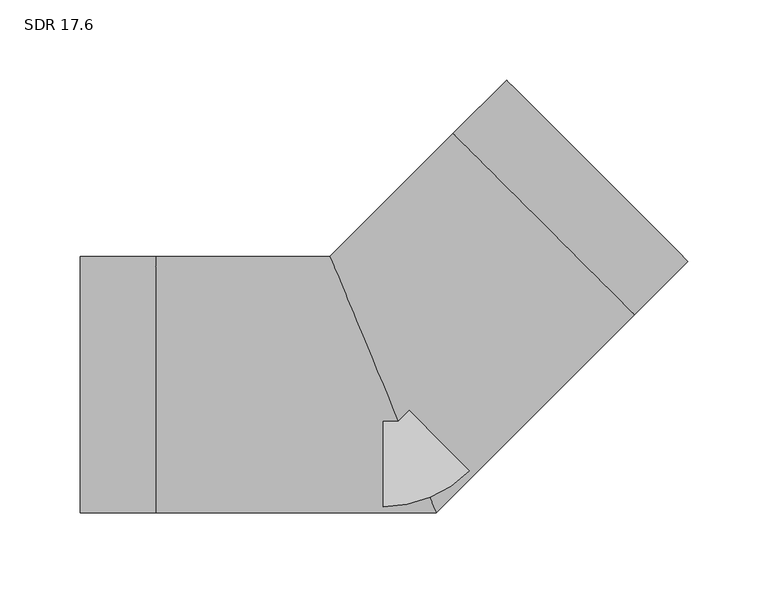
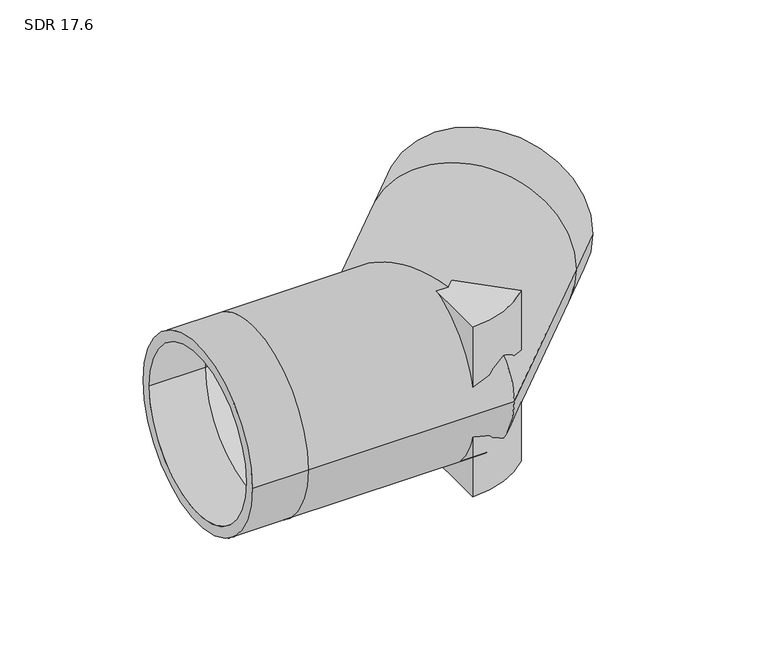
"""IFC4 building model written with IfcOpenShell, lengths in millimetres: pipe fitting geometry, Aquatherm - Elbow Blue BW Segmented : SDR 17.6."""

from ifc_helpers import new_model, si_unit, point, frame, origin, origin_with_axes, origin_2d, place, context, project, spatial, polyline, circle_curve, ellipse_curve, trimmed, segment, composite_curve, outline, extrude, source, transform, mapped, element, save
from ifc_brep_helpers import plane_surface, cylinder_surface, revolved_surface, advanced_brep


def sdr_17_6_aa5cc829(model_context):
    return source(origin(), model_context, "Body", "SolidModel", [
        extrude(outline(composite_curve([segment(polyline([(0.0, -76.2), (0.0, 0.0), (53.8815367, -53.8815367)]), True, "CONTINUOUS"), segment(trimmed(circle_curve(origin_2d(), 76.2), [point((53.8815367, -53.8815367))], [point((0.0, -76.2))], False, "CARTESIAN"), True, "CONTINUOUS")], self_intersect=False)), frame((0.0, 0.0, -76.2), z_axis=(0.0, 0.0, 1.0), x_axis=(1.0, 0.0, 0.0)), (0.0, 0.0, 1.0), 76.2),
        extrude(outline(composite_curve([segment(trimmed(circle_curve(origin_2d(), 76.2), [point((53.8815367, -53.8815367))], [point((0.0, -76.2))], False, "CARTESIAN"), True, "CONTINUOUS"), segment(polyline([(0.0, -76.2), (0.0, 0.0), (53.8815367, -53.8815367)]), True, "CONTINUOUS")], self_intersect=False)), origin_with_axes(), (0.0, 0.0, 1.0), 76.2),
        advanced_brep(
        [(-188.976, -80.01, 0.0), (-188.976, 80.01, 0.0), (-188.976, -70.9187617, 0.0), (-188.976, 70.9187617, 0.0), (190.2018246, 77.0505975, 0.0), (77.0505975, 190.2018246, 0.0), (183.7733484, 83.4790738, 0.0), (83.4790738, 183.7733484, 0.0), (-141.732, -80.01, 0.0), (-141.732, 80.01, 0.0), (-141.732, -70.9187617, 0.0), (-141.732, 70.9187617, 0.0), (33.1412271, -80.01, 0.0), (-33.1412271, 80.01, 0.0), (29.3755129, -70.9187617, 0.0), (-29.3755129, 70.9187617, 0.0), (156.7952719, 43.6440447, 0.0), (43.6440447, 156.7952719, 0.0), (150.3667956, 50.072521, 0.0), (50.072521, 150.3667956, 0.0)],
        [
            (0, 1, circle_curve(frame((-188.976, 0.0, 0.0), z_axis=(-1.0, 0.0, 0.0), x_axis=(0.0, 1.0, 0.0)), 80.01)),
            (1, 0, circle_curve(frame((-188.976, 0.0, 0.0), z_axis=(-1.0, 0.0, 0.0), x_axis=(0.0, 1.0, 0.0)), 80.01)),
            (2, 3, circle_curve(frame((-188.976, 0.0, 0.0), z_axis=(1.0, 0.0, 0.0), x_axis=(0.0, 1.0, 0.0)), 70.9187617)),
            (3, 2, circle_curve(frame((-188.976, 0.0, 0.0), z_axis=(1.0, 0.0, 0.0), x_axis=(0.0, 1.0, 0.0)), 70.9187617)),
            (4, 5, circle_curve(frame((133.6262111, 133.6262111, 0.0), z_axis=(0.7071067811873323, 0.7071067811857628, 0.0), x_axis=(-0.7071067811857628, 0.7071067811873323, 0.0)), 80.01)),
            (5, 4, circle_curve(frame((133.6262111, 133.6262111, 0.0), z_axis=(0.7071067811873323, 0.7071067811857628, 0.0), x_axis=(-0.7071067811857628, 0.7071067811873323, 0.0)), 80.01)),
            (6, 7, circle_curve(frame((133.6262111, 133.6262111, 0.0), z_axis=(-0.7071067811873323, -0.7071067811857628, 0.0), x_axis=(-0.7071067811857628, 0.7071067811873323, 0.0)), 70.9187617)),
            (7, 6, circle_curve(frame((133.6262111, 133.6262111, 0.0), z_axis=(-0.7071067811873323, -0.7071067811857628, 0.0), x_axis=(-0.7071067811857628, 0.7071067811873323, 0.0)), 70.9187617)),
            (0, 8),
            (8, 9, circle_curve(frame((-141.732, 0.0, 0.0), z_axis=(-1.0, 0.0, 0.0), x_axis=(0.0, 1.0, 0.0)), 80.01)),
            (9, 1),
            (9, 8, circle_curve(frame((-141.732, 0.0, 0.0), z_axis=(-1.0, 0.0, 0.0), x_axis=(0.0, 1.0, 0.0)), 80.01)),
            (2, 10),
            (10, 11, circle_curve(frame((-141.732, 0.0, 0.0), z_axis=(1.0, 0.0, 0.0), x_axis=(0.0, 1.0, 0.0)), 70.9187617)),
            (11, 3),
            (11, 10, circle_curve(frame((-141.732, 0.0, 0.0), z_axis=(1.0, 0.0, 0.0), x_axis=(0.0, 1.0, 0.0)), 70.9187617)),
            (8, 12),
            (12, 13, ellipse_curve(frame((0.0, 0.0, 0.0), z_axis=(-0.923879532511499, -0.3826834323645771, 0.0), x_axis=(-0.38268343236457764, 0.9238795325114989, 0.0)), 86.6021999, 80.01)),
            (13, 9),
            (13, 12, ellipse_curve(frame((0.0, 0.0, 0.0), z_axis=(-0.923879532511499, -0.3826834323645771, 0.0), x_axis=(-0.38268343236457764, 0.9238795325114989, 0.0)), 86.6021999, 80.01)),
            (10, 14),
            (14, 15, ellipse_curve(frame((0.0, 0.0, 0.0), z_axis=(0.923879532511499, 0.3826834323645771, 0.0), x_axis=(0.38268343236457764, -0.9238795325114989, 0.0)), 76.7619145, 70.9187617)),
            (15, 11),
            (15, 14, ellipse_curve(frame((0.0, 0.0, 0.0), z_axis=(0.923879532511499, 0.3826834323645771, 0.0), x_axis=(0.38268343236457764, -0.9238795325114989, 0.0)), 76.7619145, 70.9187617)),
            (12, 16),
            (16, 17, circle_curve(frame((100.2196583, 100.2196583, 0.0), z_axis=(-0.707106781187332, -0.7071067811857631, 0.0), x_axis=(-0.7071067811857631, 0.707106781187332, 0.0)), 80.01)),
            (17, 13),
            (17, 16, circle_curve(frame((100.2196583, 100.2196583, 0.0), z_axis=(-0.707106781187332, -0.7071067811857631, 0.0), x_axis=(-0.7071067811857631, 0.707106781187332, 0.0)), 80.01)),
            (14, 18),
            (18, 19, circle_curve(frame((100.2196583, 100.2196583, 0.0), z_axis=(0.707106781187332, 0.7071067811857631, 0.0), x_axis=(-0.7071067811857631, 0.707106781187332, 0.0)), 70.9187617)),
            (19, 15),
            (19, 18, circle_curve(frame((100.2196583, 100.2196583, 0.0), z_axis=(0.707106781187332, 0.7071067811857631, 0.0), x_axis=(-0.7071067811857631, 0.707106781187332, 0.0)), 70.9187617)),
            (16, 4),
            (5, 17),
            (18, 6),
            (7, 19),
        ],
        [
            plane_surface(frame((-188.976, 0.0, 0.0), z_axis=(-1.0, 0.0, 0.0), x_axis=(0.0, 0.0, 1.0))),
            plane_surface(frame((133.6262111, 133.6262111, 0.0), z_axis=(0.7071067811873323, 0.7071067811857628, 0.0), x_axis=(0.0, 0.0, 1.0))),
            cylinder_surface(frame((-188.976, 0.0, 0.0), z_axis=(-1.0, 0.0, 0.0), x_axis=(0.0, 1.0, 0.0)), 80.01),
            revolved_surface(polyline([(-141.732, 70.9187617, 0.0), (-188.976, 70.9187617, 0.0)]), (-188.976, 0.0, 0.0), (1.0, 0.0, 0.0)),
            cylinder_surface(frame((-141.732, 0.0, 0.0), z_axis=(-1.0, 0.0, 0.0), x_axis=(0.0, 1.0, 0.0)), 80.01),
            revolved_surface(polyline([(29.375512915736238, 70.9187617, 0.0), (-141.732, 70.9187617, 0.0)]), (-141.732, 0.0, 0.0), (1.0, 0.0, 0.0)),
            cylinder_surface(frame((0.0, 0.0, 0.0), z_axis=(-0.707106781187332, -0.7071067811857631, 0.0), x_axis=(-0.7071067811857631, 0.707106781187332, 0.0)), 80.01),
            revolved_surface(polyline([(50.07252098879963, 150.3667956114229, 0.0), (-70.9187617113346, 29.37551291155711, 0.0)]), (0.0, 0.0, 0.0), (0.707106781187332, 0.7071067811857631, 0.0)),
            cylinder_surface(frame((100.2196583, 100.2196583, 0.0), z_axis=(-0.7071067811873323, -0.7071067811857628, 0.0), x_axis=(-0.7071067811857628, 0.7071067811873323, 0.0)), 80.01),
            revolved_surface(polyline([(83.47907378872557, 183.77334841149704, 0.0), (50.07252098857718, 150.3667956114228, 0.0)]), (100.2196583, 100.2196583, 0.0), (0.7071067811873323, 0.7071067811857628, 0.0)),
        ],
        [
            (0, [[1, 2], [3, 4]]),
            (1, [[5, 6], [7, 8]]),
            (2, [[-1, 9, 10, 11]]),
            (2, [[-2, -11, 12, -9]]),
            (3, [[-3, 13, 14, 15]]),
            (3, [[-4, -15, 16, -13]]),
            (4, [[-10, 17, 18, 19]]),
            (4, [[-12, -19, 20, -17]]),
            (5, [[-14, 21, 22, 23]]),
            (5, [[-16, -23, 24, -21]]),
            (6, [[-18, 25, 26, 27]]),
            (6, [[-20, -27, 28, -25]]),
            (7, [[-22, 29, 30, 31]]),
            (7, [[-24, -31, 32, -29]]),
            (8, [[-26, 33, -6, 34]]),
            (8, [[-28, -34, -5, -33]]),
            (9, [[-30, 35, -8, 36]]),
            (9, [[-32, -36, -7, -35]]),
        ],
    ),
    ])


if __name__ == "__main__":
    model = new_model("IFC4")
    model_context = context("Model", 3, world=origin())
    ifc_project = project(units=[si_unit("LENGTHUNIT", "METRE", prefix="MILLI")], contexts=[model_context])
    site = spatial("IfcSite", under=ifc_project)
    building = spatial("IfcBuilding", under=site)
    placement = place(None, origin())
    sdr_17_6_shape = sdr_17_6_aa5cc829(model_context)
    element("IfcPipeFitting", 1, ObjectType="Aquatherm - Elbow Blue BW Segmented : SDR 17.6", at=placement, inside=building, context=model_context, shape_type="MappedRepresentation", body=[
        mapped(sdr_17_6_shape, transform((0.0, 0.0, 0.0), x_axis=(1.0, 0.0, 0.0), y_axis=(0.0, 1.0, 0.0), z_axis=(0.0, 0.0, 1.0))),
    ])
    save(model, "model.ifc")
